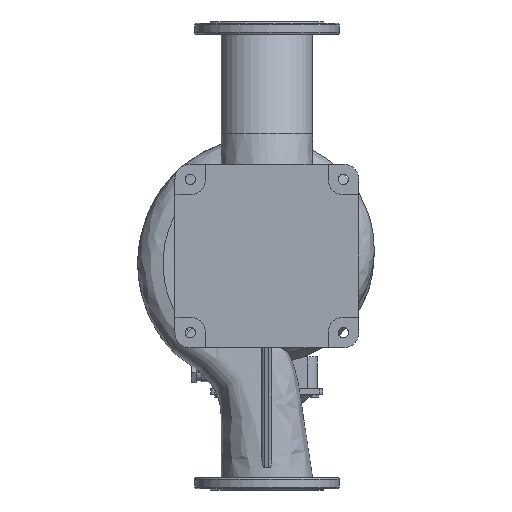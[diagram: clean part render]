
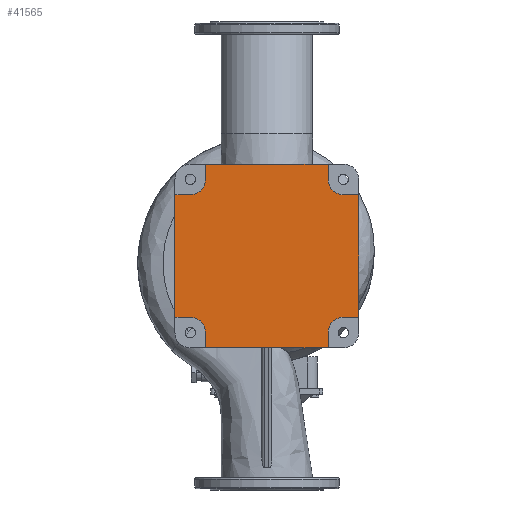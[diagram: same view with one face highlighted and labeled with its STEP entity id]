
A CAD part, front view. The second image highlights one B-rep face of the part: STEP entity #41565.
In plain terms, the highlighted planar face has unit normal (0, -1, 0).
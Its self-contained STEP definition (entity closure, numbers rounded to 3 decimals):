
#617 = VERTEX_POINT ( 'NONE', #23197 ) ;
#2101 = CARTESIAN_POINT ( 'NONE',  ( 180., -265., -180. ) ) ;
#2105 = LINE ( 'NONE', #7842, #43731 ) ;
#2730 = DIRECTION ( 'NONE',  ( 0., 1., 0. ) ) ;
#2830 = VERTEX_POINT ( 'NONE', #46132 ) ;
#3149 = EDGE_CURVE ( 'NONE', #66154, #2830, #71627, .T. ) ;
#3232 = VECTOR ( 'NONE', #67287, 1000. ) ;
#3325 = CARTESIAN_POINT ( 'NONE',  ( -180., -265., 144. ) ) ;
#4254 = LINE ( 'NONE', #60765, #24498 ) ;
#4264 = VECTOR ( 'NONE', #51937, 1000. ) ;
#4531 = DIRECTION ( 'NONE',  ( -1., 0., 0. ) ) ;
#4954 = VECTOR ( 'NONE', #34260, 1000. ) ;
#5846 = CARTESIAN_POINT ( 'NONE',  ( 144., -265., -216. ) ) ;
#7842 = CARTESIAN_POINT ( 'NONE',  ( -144., -265., 180. ) ) ;
#8447 = CARTESIAN_POINT ( 'NONE',  ( 180., -265., -144. ) ) ;
#8503 = CARTESIAN_POINT ( 'NONE',  ( -180., -265., -144. ) ) ;
#8613 = VERTEX_POINT ( 'NONE', #5846 ) ;
#10718 = CARTESIAN_POINT ( 'NONE',  ( 216., -265., -144. ) ) ;
#10842 = ORIENTED_EDGE ( 'NONE', *, *, #65196, .T. ) ;
#10990 = EDGE_CURVE ( 'NONE', #2830, #33084, #22936, .T. ) ;
#14052 = VERTEX_POINT ( 'NONE', #23308 ) ;
#14207 = CARTESIAN_POINT ( 'NONE',  ( -144., -265., -216. ) ) ;
#14704 = DIRECTION ( 'NONE',  ( 0., 0., -1. ) ) ;
#16367 = CARTESIAN_POINT ( 'NONE',  ( 144., -265., 180. ) ) ;
#16970 = CARTESIAN_POINT ( 'NONE',  ( 144., -265., -216. ) ) ;
#17130 = AXIS2_PLACEMENT_3D ( 'NONE', #2101, #18624, #43607 ) ;
#18175 = LINE ( 'NONE', #16970, #3232 ) ;
#18310 = DIRECTION ( 'NONE',  ( 0., 0., 1. ) ) ;
#18488 = ORIENTED_EDGE ( 'NONE', *, *, #3149, .T. ) ;
#18624 = DIRECTION ( 'NONE',  ( 0., 1., 0. ) ) ;
#19125 = DIRECTION ( 'NONE',  ( 0., 0., 1. ) ) ;
#19328 = EDGE_CURVE ( 'NONE', #42327, #54528, #38739, .T. ) ;
#19792 = ORIENTED_EDGE ( 'NONE', *, *, #21918, .T. ) ;
#19991 = LINE ( 'NONE', #75278, #4264 ) ;
#20076 = AXIS2_PLACEMENT_3D ( 'NONE', #66598, #2730, #22008 ) ;
#20618 = ORIENTED_EDGE ( 'NONE', *, *, #44995, .T. ) ;
#20875 = CARTESIAN_POINT ( 'NONE',  ( -144., -265., -180. ) ) ;
#20895 = DIRECTION ( 'NONE',  ( 0., 0., 1. ) ) ;
#21342 = DIRECTION ( 'NONE',  ( -1., 0., 0. ) ) ;
#21918 = EDGE_CURVE ( 'NONE', #33084, #47095, #2105, .T. ) ;
#22008 = DIRECTION ( 'NONE',  ( 1., 0., 0. ) ) ;
#22805 = FACE_OUTER_BOUND ( 'NONE', #34203, .T. ) ;
#22936 = LINE ( 'NONE', #53644, #34653 ) ;
#23127 = ORIENTED_EDGE ( 'NONE', *, *, #72859, .T. ) ;
#23190 = CARTESIAN_POINT ( 'NONE',  ( -180., -265., -180. ) ) ;
#23197 = CARTESIAN_POINT ( 'NONE',  ( -216., -265., 144. ) ) ;
#23308 = CARTESIAN_POINT ( 'NONE',  ( -180., -265., 144. ) ) ;
#23443 = EDGE_CURVE ( 'NONE', #26572, #43904, #27031, .T. ) ;
#23868 = VECTOR ( 'NONE', #18310, 1000. ) ;
#24498 = VECTOR ( 'NONE', #29277, 1000. ) ;
#25543 = EDGE_CURVE ( 'NONE', #73471, #80181, #4254, .T. ) ;
#26418 = AXIS2_PLACEMENT_3D ( 'NONE', #76381, #32640, #19125 ) ;
#26572 = VERTEX_POINT ( 'NONE', #32800 ) ;
#27031 = LINE ( 'NONE', #20875, #59605 ) ;
#27506 = DIRECTION ( 'NONE',  ( 0., 0., -1. ) ) ;
#27600 = CIRCLE ( 'NONE', #73362, 36. ) ;
#27624 = CARTESIAN_POINT ( 'NONE',  ( 180., -265., -144. ) ) ;
#27918 = DIRECTION ( 'NONE',  ( 0., 1., 0. ) ) ;
#29277 = DIRECTION ( 'NONE',  ( 1., 0., 0. ) ) ;
#29346 = DIRECTION ( 'NONE',  ( 0., 1., 0. ) ) ;
#29839 = CARTESIAN_POINT ( 'NONE',  ( 144., -265., -180. ) ) ;
#32640 = DIRECTION ( 'NONE',  ( 0., 1., 0. ) ) ;
#32800 = CARTESIAN_POINT ( 'NONE',  ( -144., -265., -180. ) ) ;
#33084 = VERTEX_POINT ( 'NONE', #47803 ) ;
#33628 = CIRCLE ( 'NONE', #53211, 36. ) ;
#34054 = CARTESIAN_POINT ( 'NONE',  ( -180., -265., 180. ) ) ;
#34203 = EDGE_LOOP ( 'NONE', ( #62660, #48542, #20618, #52037, #47923, #10842, #44496, #71421, #67416, #18488, #52384, #19792, #46712, #37929, #23127, #77251 ) ) ;
#34260 = DIRECTION ( 'NONE',  ( 1., 0., 0. ) ) ;
#34633 = CARTESIAN_POINT ( 'NONE',  ( -144., -265., 180. ) ) ;
#34653 = VECTOR ( 'NONE', #35614, 1000. ) ;
#35614 = DIRECTION ( 'NONE',  ( -1., 0., 0. ) ) ;
#37143 = EDGE_CURVE ( 'NONE', #80181, #26572, #27600, .T. ) ;
#37929 = ORIENTED_EDGE ( 'NONE', *, *, #50213, .T. ) ;
#38612 = VERTEX_POINT ( 'NONE', #27624 ) ;
#38739 = LINE ( 'NONE', #53040, #48236 ) ;
#39512 = DIRECTION ( 'NONE',  ( 0., 0., 1. ) ) ;
#40046 = VERTEX_POINT ( 'NONE', #47355 ) ;
#40579 = CARTESIAN_POINT ( 'NONE',  ( 180., -265., 144. ) ) ;
#41565 = ADVANCED_FACE ( 'NONE', ( #22805 ), #58829, .F. ) ;
#42123 = CIRCLE ( 'NONE', #26418, 36. ) ;
#42327 = VERTEX_POINT ( 'NONE', #10718 ) ;
#43607 = DIRECTION ( 'NONE',  ( 0., 0., 1. ) ) ;
#43731 = VECTOR ( 'NONE', #27506, 1000. ) ;
#43904 = VERTEX_POINT ( 'NONE', #14207 ) ;
#44496 = ORIENTED_EDGE ( 'NONE', *, *, #19328, .T. ) ;
#44995 = EDGE_CURVE ( 'NONE', #43904, #8613, #18175, .T. ) ;
#46132 = CARTESIAN_POINT ( 'NONE',  ( 144., -265., 216. ) ) ;
#46712 = ORIENTED_EDGE ( 'NONE', *, *, #53636, .T. ) ;
#47095 = VERTEX_POINT ( 'NONE', #34633 ) ;
#47227 = CIRCLE ( 'NONE', #17130, 36. ) ;
#47355 = CARTESIAN_POINT ( 'NONE',  ( 180., -265., 144. ) ) ;
#47803 = CARTESIAN_POINT ( 'NONE',  ( -144., -265., 216. ) ) ;
#47923 = ORIENTED_EDGE ( 'NONE', *, *, #69734, .T. ) ;
#47961 = LINE ( 'NONE', #3325, #80295 ) ;
#48236 = VECTOR ( 'NONE', #39512, 1000. ) ;
#48529 = VECTOR ( 'NONE', #20895, 1000. ) ;
#48542 = ORIENTED_EDGE ( 'NONE', *, *, #23443, .T. ) ;
#50213 = EDGE_CURVE ( 'NONE', #14052, #617, #47961, .T. ) ;
#50228 = EDGE_CURVE ( 'NONE', #54528, #40046, #65145, .T. ) ;
#51937 = DIRECTION ( 'NONE',  ( 0., 0., -1. ) ) ;
#52037 = ORIENTED_EDGE ( 'NONE', *, *, #73067, .T. ) ;
#52384 = ORIENTED_EDGE ( 'NONE', *, *, #10990, .T. ) ;
#53040 = CARTESIAN_POINT ( 'NONE',  ( 216., -265., 144. ) ) ;
#53211 = AXIS2_PLACEMENT_3D ( 'NONE', #34054, #27918, #66389 ) ;
#53636 = EDGE_CURVE ( 'NONE', #47095, #14052, #33628, .T. ) ;
#53644 = CARTESIAN_POINT ( 'NONE',  ( -144., -265., 216. ) ) ;
#54528 = VERTEX_POINT ( 'NONE', #79564 ) ;
#55428 = EDGE_CURVE ( 'NONE', #40046, #66154, #42123, .T. ) ;
#55492 = VECTOR ( 'NONE', #4531, 1000. ) ;
#58829 = PLANE ( 'NONE',  #20076 ) ;
#59605 = VECTOR ( 'NONE', #14704, 1000. ) ;
#60765 = CARTESIAN_POINT ( 'NONE',  ( -180., -265., -144. ) ) ;
#62660 = ORIENTED_EDGE ( 'NONE', *, *, #37143, .T. ) ;
#65145 = LINE ( 'NONE', #40579, #55492 ) ;
#65196 = EDGE_CURVE ( 'NONE', #38612, #42327, #65760, .T. ) ;
#65760 = LINE ( 'NONE', #8447, #4954 ) ;
#66154 = VERTEX_POINT ( 'NONE', #76884 ) ;
#66389 = DIRECTION ( 'NONE',  ( 0., 0., 1. ) ) ;
#66566 = DIRECTION ( 'NONE',  ( 0., 0., 1. ) ) ;
#66598 = CARTESIAN_POINT ( 'NONE',  ( -180., -265., -180. ) ) ;
#67287 = DIRECTION ( 'NONE',  ( 1., 0., 0. ) ) ;
#67416 = ORIENTED_EDGE ( 'NONE', *, *, #55428, .T. ) ;
#69734 = EDGE_CURVE ( 'NONE', #74288, #38612, #47227, .T. ) ;
#71421 = ORIENTED_EDGE ( 'NONE', *, *, #50228, .T. ) ;
#71627 = LINE ( 'NONE', #16367, #48529 ) ;
#72859 = EDGE_CURVE ( 'NONE', #617, #73471, #19991, .T. ) ;
#73067 = EDGE_CURVE ( 'NONE', #8613, #74288, #80080, .T. ) ;
#73362 = AXIS2_PLACEMENT_3D ( 'NONE', #23190, #29346, #66566 ) ;
#73471 = VERTEX_POINT ( 'NONE', #79198 ) ;
#74288 = VERTEX_POINT ( 'NONE', #79994 ) ;
#75278 = CARTESIAN_POINT ( 'NONE',  ( -216., -265., -144. ) ) ;
#76381 = CARTESIAN_POINT ( 'NONE',  ( 180., -265., 180. ) ) ;
#76884 = CARTESIAN_POINT ( 'NONE',  ( 144., -265., 180. ) ) ;
#77251 = ORIENTED_EDGE ( 'NONE', *, *, #25543, .T. ) ;
#79198 = CARTESIAN_POINT ( 'NONE',  ( -216., -265., -144. ) ) ;
#79564 = CARTESIAN_POINT ( 'NONE',  ( 216., -265., 144. ) ) ;
#79994 = CARTESIAN_POINT ( 'NONE',  ( 144., -265., -180. ) ) ;
#80080 = LINE ( 'NONE', #29839, #23868 ) ;
#80181 = VERTEX_POINT ( 'NONE', #8503 ) ;
#80295 = VECTOR ( 'NONE', #21342, 1000. ) ;
